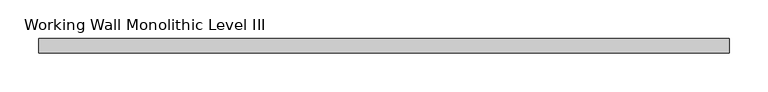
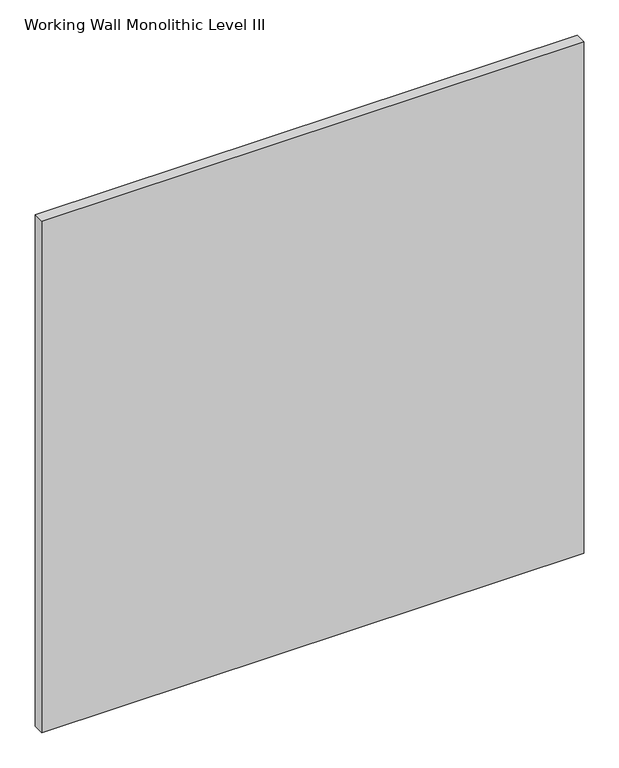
"""IFC4 building model written with IfcOpenShell, lengths in millimetres: proxy geometry, Panel-Fascia-Teknion-Altos-Standard : Working Wall Monolithic Level III."""

from ifc_helpers import new_model, si_unit, frame, origin, place, context, project, spatial, polyline, outline, extrude, source, transform, mapped, element, save


def working_wall_monolithic_level_iii_b79156b4(model_context):
    return source(origin(), model_context, "Body", "SweptSolid", [
        extrude(outline(polyline([(447.0300781, 9.525), (447.0300781, -9.525), (-447.0300781, -9.525), (-447.0300781, 9.525), (447.0300781, 9.525)])), frame((0.0, 0.0, 3.175), z_axis=(0.0, 0.0, 1.0), x_axis=(1.0, 0.0, 0.0)), (0.0, 0.0, 1.0), 892.175),
    ])


if __name__ == "__main__":
    model = new_model("IFC4")
    model_context = context("Model", 3, world=origin())
    ifc_project = project(units=[si_unit("LENGTHUNIT", "METRE", prefix="MILLI")], contexts=[model_context])
    site = spatial("IfcSite", under=ifc_project)
    building = spatial("IfcBuilding", under=site)
    placement = place(None, origin())
    working_wall_monolithic_level_iii_shape = working_wall_monolithic_level_iii_b79156b4(model_context)
    element("IfcBuildingElementProxy", 1, Name="Panel-Fascia-Teknion-Altos-Standard : Working Wall Monolithic Level III", ObjectType="Panel-Fascia-Teknion-Altos-Standard : Working Wall Monolithic Level III", at=placement, inside=building, context=model_context, shape_type="MappedRepresentation", body=[
        mapped(working_wall_monolithic_level_iii_shape, transform((0.0, 0.0, 0.0), x_axis=(1.0, 0.0, 0.0), y_axis=(0.0, 1.0, 0.0), z_axis=(0.0, 0.0, 1.0))),
    ])
    save(model, "model.ifc")
